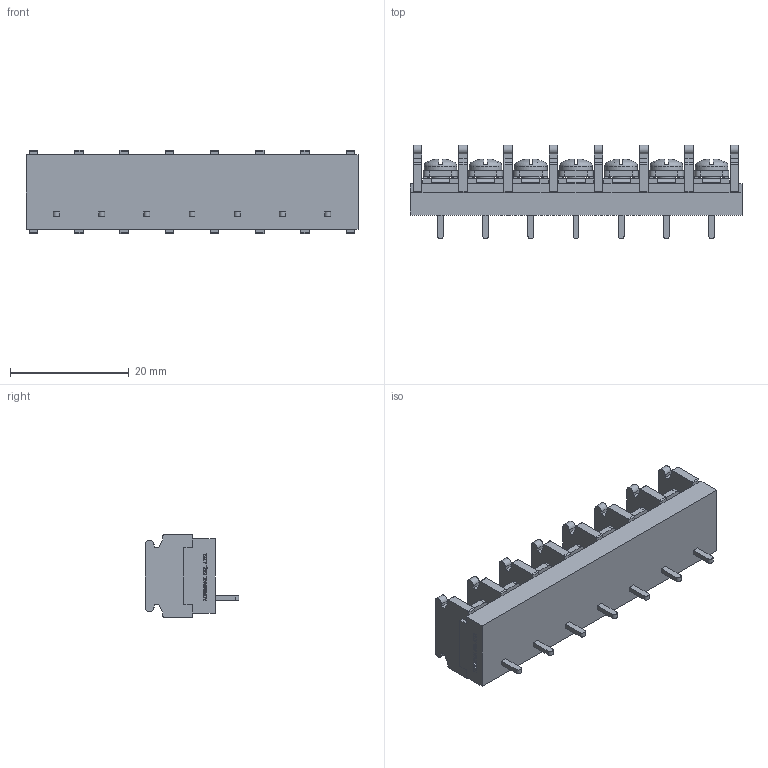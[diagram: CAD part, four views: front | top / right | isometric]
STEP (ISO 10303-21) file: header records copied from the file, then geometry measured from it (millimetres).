
FILE_DESCRIPTION(/* description */ ('Alibre Inc.'),/* implementation_level */ '2;1');
FILE_NAME(/* name */ 'export0',/* time_stamp */ '2015-10-23T19:27:01+09:00',/* author */ (''),/* organization */ (''),/* preprocessor_version */ 'ST-DEVELOPER v14',/* originating_system */ 'Alibre',/* authorisation */ '');
FILE_SCHEMA (('CONFIG_CONTROL_DESIGN'));
Length unit declared in the file: centimetre
Products named in the file (1): ID_1
Bounding box: 55.96 x 15.8 x 14 mm (x, y, z)
Volume: 5299.4 mm3; surface area: 5083.5 mm2
Topology: 1 solids, 1 shells, 1200 faces, 3295 edges, 2165 vertices
Faces by surface type: plane 922, cylinder 118, bspline 104, cone 28, torus 14, sphere 14
Full cylindrical faces by diameter (mm): 3 x7, 5.5 x7
Entity records: 36298 total; most frequent: CARTESIAN_POINT 8016, ORIENTED_EDGE 6478, DIRECTION 4475, EDGE_CURVE 3239, VECTOR 2368, LINE 2368, VERTEX_POINT 2137, AXIS2_PLACEMENT_3D 1479
